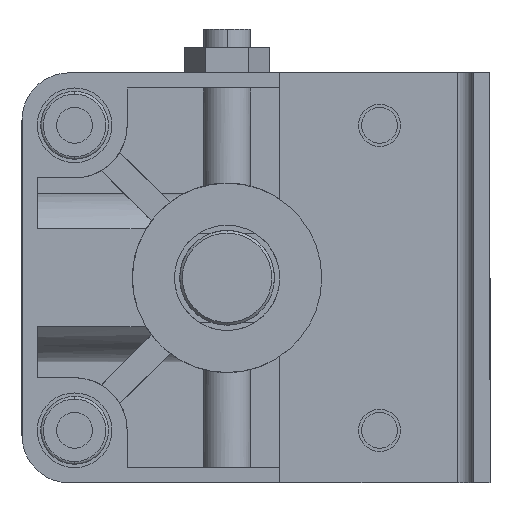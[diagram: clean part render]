
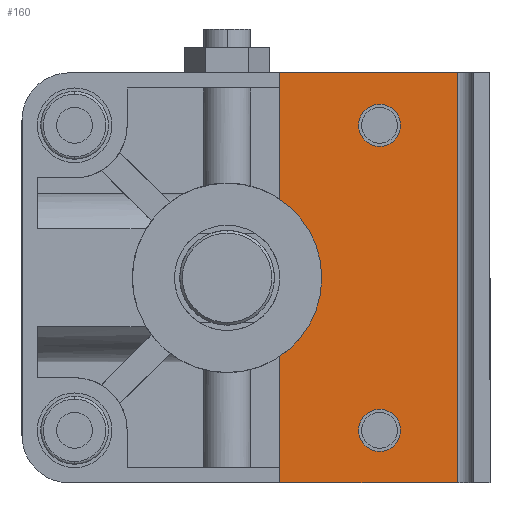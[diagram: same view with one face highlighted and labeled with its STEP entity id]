
A CAD part, left-side view. The second image highlights one B-rep face of the part: STEP entity #160.
In plain terms, the highlighted planar face has unit normal (-1, 0, 0) as drawn and (0, 0, 1) by its records, which use the part's own axes.
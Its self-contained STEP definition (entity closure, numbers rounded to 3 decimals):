
#160 = ADVANCED_FACE ( 'NONE', ( #3857, #4846, #4293 ), #650, .T. ) ;
#306 = CARTESIAN_POINT ( 'NONE',  ( 39., -30.5, 0. ) ) ;
#420 = ORIENTED_EDGE ( 'NONE', *, *, #5833, .F. ) ;
#508 = DIRECTION ( 'NONE',  ( 0., 0., 1. ) ) ;
#650 = PLANE ( 'NONE',  #7387 ) ;
#750 = VERTEX_POINT ( 'NONE', #4641 ) ;
#777 = ORIENTED_EDGE ( 'NONE', *, *, #1532, .T. ) ;
#811 = EDGE_CURVE ( 'NONE', #4696, #750, #5308, .T. ) ;
#877 = AXIS2_PLACEMENT_3D ( 'NONE', #7618, #2821, #3381 ) ;
#914 = LINE ( 'NONE', #1738, #2272 ) ;
#1021 = VERTEX_POINT ( 'NONE', #7631 ) ;
#1162 = EDGE_CURVE ( 'NONE', #7565, #1963, #4071, .T. ) ;
#1238 = VECTOR ( 'NONE', #1522, 1000. ) ;
#1291 = ORIENTED_EDGE ( 'NONE', *, *, #5977, .T. ) ;
#1499 = EDGE_LOOP ( 'NONE', ( #2674, #5255 ) ) ;
#1522 = DIRECTION ( 'NONE',  ( -1., 0., 0. ) ) ;
#1528 = EDGE_LOOP ( 'NONE', ( #4200, #1291, #420, #5785, #5549, #8346 ) ) ;
#1532 = EDGE_CURVE ( 'NONE', #4177, #3679, #6127, .T. ) ;
#1738 = CARTESIAN_POINT ( 'NONE',  ( 0., -44.3, 0. ) ) ;
#1755 = CARTESIAN_POINT ( 'NONE',  ( -39., -44.3, 0. ) ) ;
#1963 = VERTEX_POINT ( 'NONE', #7728 ) ;
#1987 = VERTEX_POINT ( 'NONE', #3496 ) ;
#2109 = VERTEX_POINT ( 'NONE', #6260 ) ;
#2272 = VECTOR ( 'NONE', #6651, 1000. ) ;
#2357 = LINE ( 'NONE', #7275, #1238 ) ;
#2487 = CARTESIAN_POINT ( 'NONE',  ( 33., -29.5, 0. ) ) ;
#2522 = CARTESIAN_POINT ( 'NONE',  ( -29., -29.5, 0. ) ) ;
#2621 = CARTESIAN_POINT ( 'NONE',  ( 29., -29.5, 0. ) ) ;
#2674 = ORIENTED_EDGE ( 'NONE', *, *, #7438, .T. ) ;
#2787 = EDGE_CURVE ( 'NONE', #3679, #4177, #6262, .T. ) ;
#2821 = DIRECTION ( 'NONE',  ( 0., 0., -1. ) ) ;
#3274 = VECTOR ( 'NONE', #4391, 1000. ) ;
#3326 = ORIENTED_EDGE ( 'NONE', *, *, #2787, .T. ) ;
#3354 = DIRECTION ( 'NONE',  ( 0., 0., -1. ) ) ;
#3379 = VECTOR ( 'NONE', #6858, 1000. ) ;
#3381 = DIRECTION ( 'NONE',  ( 1., 0., 0. ) ) ;
#3496 = CARTESIAN_POINT ( 'NONE',  ( -39., -10.5, 0. ) ) ;
#3543 = AXIS2_PLACEMENT_3D ( 'NONE', #2522, #3354, #4777 ) ;
#3559 = DIRECTION ( 'NONE',  ( 1., 0., 0. ) ) ;
#3679 = VERTEX_POINT ( 'NONE', #2487 ) ;
#3719 = EDGE_CURVE ( 'NONE', #1021, #4696, #2357, .T. ) ;
#3857 = FACE_BOUND ( 'NONE', #1499, .T. ) ;
#3934 = LINE ( 'NONE', #306, #3379 ) ;
#4071 = CIRCLE ( 'NONE', #5260, 4. ) ;
#4149 = CARTESIAN_POINT ( 'NONE',  ( -29., -29.5, 0. ) ) ;
#4177 = VERTEX_POINT ( 'NONE', #5359 ) ;
#4200 = ORIENTED_EDGE ( 'NONE', *, *, #811, .T. ) ;
#4293 = FACE_OUTER_BOUND ( 'NONE', #1528, .T. ) ;
#4391 = DIRECTION ( 'NONE',  ( 0., 1., 0. ) ) ;
#4432 = CARTESIAN_POINT ( 'NONE',  ( -39., -44.3, 0. ) ) ;
#4578 = VERTEX_POINT ( 'NONE', #1755 ) ;
#4641 = CARTESIAN_POINT ( 'NONE',  ( -14.62, -10.5, 0. ) ) ;
#4696 = VERTEX_POINT ( 'NONE', #5133 ) ;
#4777 = DIRECTION ( 'NONE',  ( 1., 0., 0. ) ) ;
#4820 = LINE ( 'NONE', #8066, #6623 ) ;
#4846 = FACE_BOUND ( 'NONE', #5351, .T. ) ;
#5075 = CARTESIAN_POINT ( 'NONE',  ( -33., -29.5, 0. ) ) ;
#5082 = CARTESIAN_POINT ( 'NONE',  ( -39., -30.5, 0. ) ) ;
#5133 = CARTESIAN_POINT ( 'NONE',  ( 14.62, -10.5, 0. ) ) ;
#5255 = ORIENTED_EDGE ( 'NONE', *, *, #1162, .T. ) ;
#5260 = AXIS2_PLACEMENT_3D ( 'NONE', #4149, #5693, #3559 ) ;
#5295 = DIRECTION ( 'NONE',  ( 0., 0., -1. ) ) ;
#5308 = CIRCLE ( 'NONE', #877, 18. ) ;
#5351 = EDGE_LOOP ( 'NONE', ( #3326, #777 ) ) ;
#5359 = CARTESIAN_POINT ( 'NONE',  ( 25., -29.5, 0. ) ) ;
#5509 = LINE ( 'NONE', #5082, #3274 ) ;
#5549 = ORIENTED_EDGE ( 'NONE', *, *, #7336, .F. ) ;
#5639 = CARTESIAN_POINT ( 'NONE',  ( 29., -29.5, 0. ) ) ;
#5693 = DIRECTION ( 'NONE',  ( 0., 0., -1. ) ) ;
#5785 = ORIENTED_EDGE ( 'NONE', *, *, #6579, .F. ) ;
#5833 = EDGE_CURVE ( 'NONE', #4578, #1987, #5509, .T. ) ;
#5912 = DIRECTION ( 'NONE',  ( 1., 0., 0. ) ) ;
#5977 = EDGE_CURVE ( 'NONE', #750, #1987, #4820, .T. ) ;
#6127 = CIRCLE ( 'NONE', #7968, 4. ) ;
#6260 = CARTESIAN_POINT ( 'NONE',  ( 39., -44.3, 0. ) ) ;
#6262 = CIRCLE ( 'NONE', #6686, 4. ) ;
#6329 = DIRECTION ( 'NONE',  ( 0., 0., -1. ) ) ;
#6579 = EDGE_CURVE ( 'NONE', #2109, #4578, #914, .T. ) ;
#6623 = VECTOR ( 'NONE', #7356, 1000. ) ;
#6651 = DIRECTION ( 'NONE',  ( -1., 0., 0. ) ) ;
#6686 = AXIS2_PLACEMENT_3D ( 'NONE', #5639, #6329, #5912 ) ;
#6858 = DIRECTION ( 'NONE',  ( 0., -1., 0. ) ) ;
#7264 = DIRECTION ( 'NONE',  ( 1., 0., 0. ) ) ;
#7275 = CARTESIAN_POINT ( 'NONE',  ( 0., -10.5, 0. ) ) ;
#7336 = EDGE_CURVE ( 'NONE', #1021, #2109, #3934, .T. ) ;
#7356 = DIRECTION ( 'NONE',  ( -1., 0., 0. ) ) ;
#7387 = AXIS2_PLACEMENT_3D ( 'NONE', #4432, #508, #7789 ) ;
#7438 = EDGE_CURVE ( 'NONE', #1963, #7565, #7600, .T. ) ;
#7565 = VERTEX_POINT ( 'NONE', #5075 ) ;
#7600 = CIRCLE ( 'NONE', #3543, 4. ) ;
#7618 = CARTESIAN_POINT ( 'NONE',  ( 0., 0., 0. ) ) ;
#7631 = CARTESIAN_POINT ( 'NONE',  ( 39., -10.5, 0. ) ) ;
#7728 = CARTESIAN_POINT ( 'NONE',  ( -25., -29.5, 0. ) ) ;
#7789 = DIRECTION ( 'NONE',  ( 1., 0., 0. ) ) ;
#7968 = AXIS2_PLACEMENT_3D ( 'NONE', #2621, #5295, #7264 ) ;
#8066 = CARTESIAN_POINT ( 'NONE',  ( 0., -10.5, 0. ) ) ;
#8346 = ORIENTED_EDGE ( 'NONE', *, *, #3719, .T. ) ;
